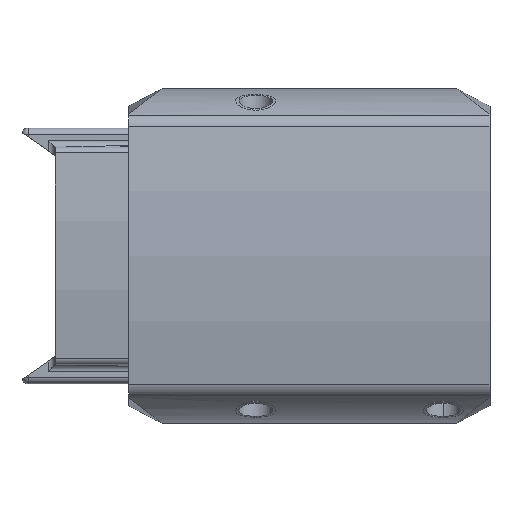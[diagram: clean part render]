
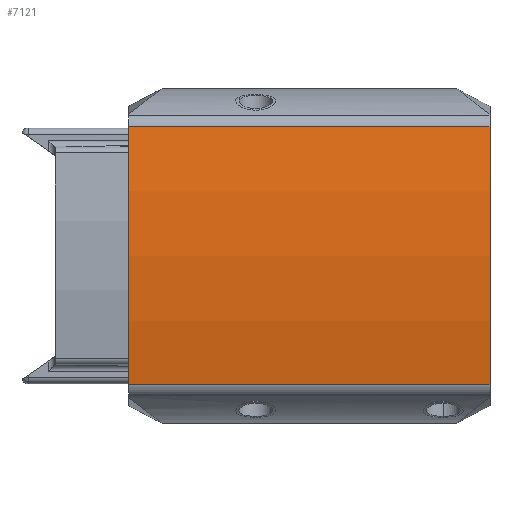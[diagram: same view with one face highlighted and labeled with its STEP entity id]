
A CAD part, top view. The second image highlights one B-rep face of the part: STEP entity #7121.
In plain terms, the highlighted cylindrical face has radius 200 mm (diameter 400 mm), a partial arc.
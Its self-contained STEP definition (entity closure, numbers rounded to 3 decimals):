
#242=CARTESIAN_POINT('',(0.,0.,-165.));
#243=DIRECTION('',(1.,0.,0.));
#244=DIRECTION('',(0.,0.193,0.981));
#245=AXIS2_PLACEMENT_3D('',#242,#243,#244);
#839=DIRECTION('',(-1.,0.,0.));
#840=VECTOR('',#839,108.);
#841=CARTESIAN_POINT('',(108.,38.551,31.249));
#842=LINE('',#841,#840);
#846=DIRECTION('',(-1.,0.,0.));
#847=VECTOR('',#846,108.);
#848=CARTESIAN_POINT('',(108.,-38.551,31.249));
#849=LINE('',#848,#847);
#1186=CARTESIAN_POINT('',(108.,0.,-165.));
#1187=DIRECTION('',(1.,0.,0.));
#1188=DIRECTION('',(0.,0.193,0.981));
#1189=AXIS2_PLACEMENT_3D('',#1186,#1187,#1188);
#6206=CARTESIAN_POINT('',(108.,38.551,31.249));
#6207=CARTESIAN_POINT('',(0.,38.551,31.249));
#6208=VERTEX_POINT('',#6206);
#6209=VERTEX_POINT('',#6207);
#6214=CARTESIAN_POINT('',(108.,-38.551,31.249));
#6215=CARTESIAN_POINT('',(0.,-38.551,31.249));
#6216=VERTEX_POINT('',#6214);
#6217=VERTEX_POINT('',#6215);
#7108=CARTESIAN_POINT('',(0.,0.,-165.));
#7109=DIRECTION('',(1.,0.,0.));
#7110=DIRECTION('',(0.,0.,-1.));
#7111=AXIS2_PLACEMENT_3D('',#7108,#7109,#7110);
#7112=CYLINDRICAL_SURFACE('',#7111,200.);
#7114=ORIENTED_EDGE('',*,*,#7113,.F.);
#7116=ORIENTED_EDGE('',*,*,#7115,.T.);
#7117=ORIENTED_EDGE('',*,*,#7101,.T.);
#7118=ORIENTED_EDGE('',*,*,#6899,.F.);
#7119=EDGE_LOOP('',(#7114,#7116,#7117,#7118));
#7120=FACE_OUTER_BOUND('',#7119,.F.);
#246=CIRCLE('',#245,200.);
#1190=CIRCLE('',#1189,200.);
#6899=EDGE_CURVE('',#6209,#6217,#246,.T.);
#7101=EDGE_CURVE('',#6216,#6217,#849,.T.);
#7113=EDGE_CURVE('',#6208,#6209,#842,.T.);
#7115=EDGE_CURVE('',#6208,#6216,#1190,.T.);
#7121=ADVANCED_FACE('',(#7120),#7112,.T.);
